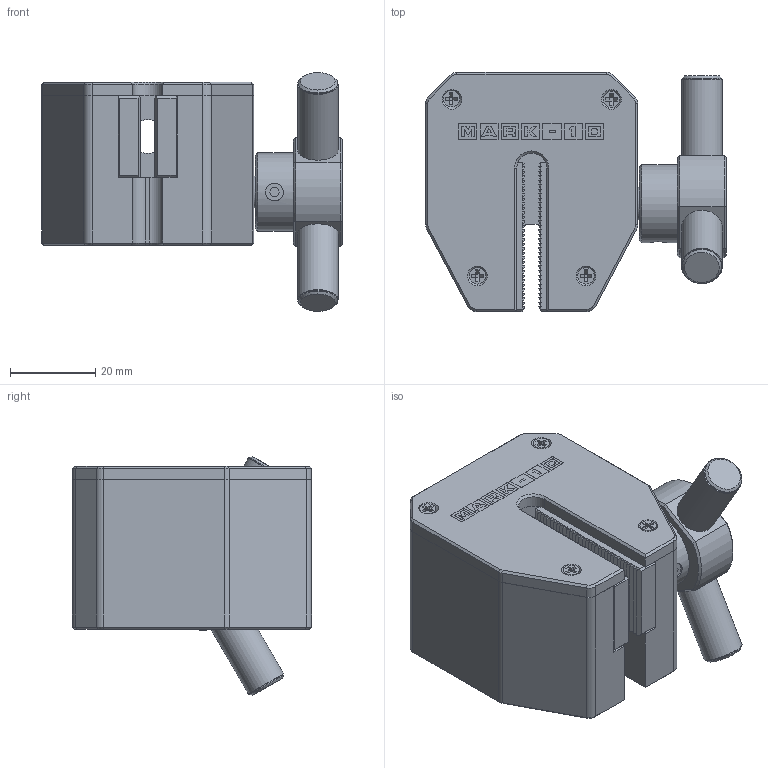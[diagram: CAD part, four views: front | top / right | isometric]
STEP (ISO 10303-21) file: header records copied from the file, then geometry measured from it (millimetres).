
FILE_DESCRIPTION((''),'2;1');
FILE_NAME('F:\CAD files\Itr\3D MARKETING MODELS\GRIPS\G1061\G1061.stp','2017-04-20T11:15:09',('mlampen'),(''),'Autodesk Inventor 2010','Autodesk Inventor 2010','');
FILE_SCHEMA(('AUTOMOTIVE_DESIGN { 1 0 10303 214 1 1 1 1 }'));
Length unit declared in the file: inch
Products named in the file (4): Assembly1; Part2; Part4; Part6
Assembly tree (3 placements, depth 2):
  Assembly1
    Part2
    Part4
    Part6
Bounding box: 70.33 x 55.96 x 55.84 mm (x, y, z)
Volume: 96115.8 mm3; surface area: 26418.2 mm2
Topology: 7 solids, 7 shells, 595 faces, 1537 edges, 994 vertices
Faces by surface type: plane 375, bspline 111, cylinder 72, cone 37
Full cylindrical faces by diameter (mm): 2.184 x4, 2.413 x3, 3.861 x3, 4.166 x1, 4.826 x3, 7.62 x1, 7.925 x1, 9.144 x3, 9.525 x3, 18.288 x1
Entity records: 17996 total; most frequent: CARTESIAN_POINT 3780, ORIENTED_EDGE 2984, DIRECTION 2627, EDGE_CURVE 1492, VECTOR 1293, LINE 1293, VERTEX_POINT 984, EDGE_LOOP 678
